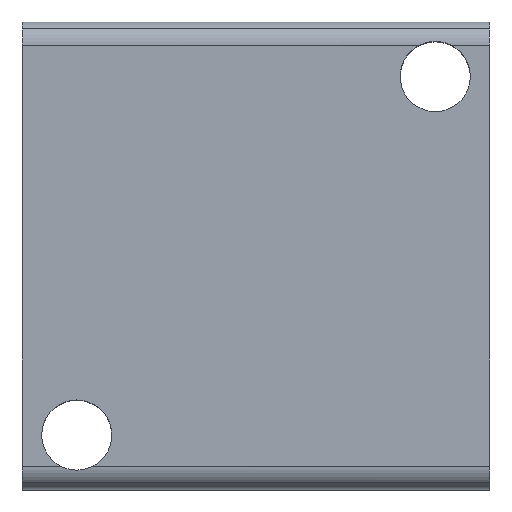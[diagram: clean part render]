
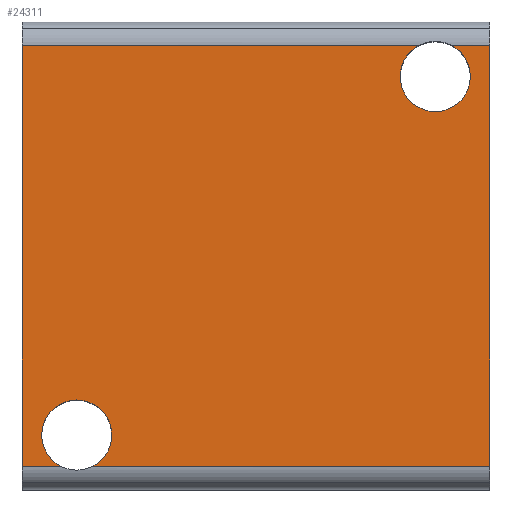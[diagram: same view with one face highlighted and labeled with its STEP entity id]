
A CAD part, top view. The second image highlights one B-rep face of the part: STEP entity #24311.
In plain terms, the highlighted planar face has unit normal (0, 0, 1).
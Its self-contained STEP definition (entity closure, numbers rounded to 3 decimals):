
#323=CARTESIAN_POINT('',(-24.75,-11.5,6.0));
#324=VERTEX_POINT('',#323);
#368=CARTESIAN_POINT('',(-29.25,-11.5,6.0));
#369=VERTEX_POINT('',#368);
#376=CARTESIAN_POINT('',(-28.031,-13.5,6.0));
#377=VERTEX_POINT('',#376);
#378=CARTESIAN_POINT('',(-27.,-11.5,6.0));
#379=DIRECTION('',(0.0,0.0,-1.0));
#380=DIRECTION('',(1.0,0.0,0.0));
#381=AXIS2_PLACEMENT_3D('',#378,#379,#380);
#382=CIRCLE('',#381,2.25);
#383=EDGE_CURVE('',#377,#369,#382,.T.);
#385=CARTESIAN_POINT('',(-25.969,-13.5,6.0));
#386=VERTEX_POINT('',#385);
#404=CARTESIAN_POINT('',(-27.,-11.5,6.0));
#405=DIRECTION('',(0.0,0.0,-1.0));
#406=DIRECTION('',(1.0,0.0,0.0));
#407=AXIS2_PLACEMENT_3D('',#404,#405,#406);
#408=CIRCLE('',#407,2.25);
#409=EDGE_CURVE('',#324,#386,#408,.T.);
#429=CARTESIAN_POINT('',(-0.5,-13.5,6.0));
#430=VERTEX_POINT('',#429);
#438=CARTESIAN_POINT('',(-0.5,-13.5,6.0));
#439=DIRECTION('',(-1.0,0.0,0.0));
#440=VECTOR('',#439,25.469);
#441=LINE('',#438,#440);
#442=EDGE_CURVE('',#430,#386,#441,.T.);
#445=CARTESIAN_POINT('',(-30.5,-13.5,6.0));
#446=VERTEX_POINT('',#445);
#447=CARTESIAN_POINT('',(-28.031,-13.5,6.0));
#448=DIRECTION('',(-1.0,0.0,0.0));
#449=VECTOR('',#448,2.469);
#450=LINE('',#447,#449);
#451=EDGE_CURVE('',#377,#446,#450,.T.);
#519=CARTESIAN_POINT('',(-1.75,11.5,6.0));
#520=VERTEX_POINT('',#519);
#536=CARTESIAN_POINT('',(-6.25,11.5,6.0));
#537=VERTEX_POINT('',#536);
#544=CARTESIAN_POINT('',(-4.,11.5,6.0));
#545=DIRECTION('',(0.0,0.0,-1.0));
#546=DIRECTION('',(1.0,0.0,0.0));
#547=AXIS2_PLACEMENT_3D('',#544,#545,#546);
#548=CIRCLE('',#547,2.25);
#549=EDGE_CURVE('',#520,#537,#548,.T.);
#638=CARTESIAN_POINT('',(-30.5,13.5,6.0));
#639=VERTEX_POINT('',#638);
#647=CARTESIAN_POINT('',(-5.031,13.5,6.0));
#648=VERTEX_POINT('',#647);
#649=CARTESIAN_POINT('',(-30.5,13.5,6.0));
#650=DIRECTION('',(1.0,0.0,0.0));
#651=VECTOR('',#650,25.469);
#652=LINE('',#649,#651);
#653=EDGE_CURVE('',#639,#648,#652,.T.);
#655=CARTESIAN_POINT('',(-2.969,13.5,6.0));
#656=VERTEX_POINT('',#655);
#674=CARTESIAN_POINT('',(-0.5,13.5,6.0));
#675=VERTEX_POINT('',#674);
#676=CARTESIAN_POINT('',(-2.969,13.5,6.0));
#677=DIRECTION('',(1.0,0.0,0.0));
#678=VECTOR('',#677,2.469);
#679=LINE('',#676,#678);
#680=EDGE_CURVE('',#656,#675,#679,.T.);
#23963=CARTESIAN_POINT('',(-30.5,-13.5,6.0));
#23964=DIRECTION('',(0.0,1.0,0.0));
#23965=VECTOR('',#23964,27.0);
#23966=LINE('',#23963,#23965);
#23967=EDGE_CURVE('',#446,#639,#23966,.T.);
#24019=CARTESIAN_POINT('',(-0.5,13.5,6.0));
#24020=DIRECTION('',(0.0,-1.0,0.0));
#24021=VECTOR('',#24020,27.0);
#24022=LINE('',#24019,#24021);
#24023=EDGE_CURVE('',#675,#430,#24022,.T.);
#24134=CARTESIAN_POINT('',(-4.,11.5,6.0));
#24135=DIRECTION('',(0.0,0.0,-1.0));
#24136=DIRECTION('',(1.0,0.0,0.0));
#24137=AXIS2_PLACEMENT_3D('',#24134,#24135,#24136);
#24138=CIRCLE('',#24137,2.25);
#24139=EDGE_CURVE('',#656,#520,#24138,.T.);
#24142=CARTESIAN_POINT('',(-4.,11.5,6.0));
#24143=DIRECTION('',(0.0,0.0,-1.0));
#24144=DIRECTION('',(1.0,0.0,0.0));
#24145=AXIS2_PLACEMENT_3D('',#24142,#24143,#24144);
#24146=CIRCLE('',#24145,2.25);
#24147=EDGE_CURVE('',#537,#648,#24146,.T.);
#24216=CARTESIAN_POINT('',(-27.,-11.5,6.0));
#24217=DIRECTION('',(0.0,0.0,-1.0));
#24218=DIRECTION('',(1.0,0.0,0.0));
#24219=AXIS2_PLACEMENT_3D('',#24216,#24217,#24218);
#24220=CIRCLE('',#24219,2.25);
#24221=EDGE_CURVE('',#369,#324,#24220,.T.);
#24292=CARTESIAN_POINT('',(0.,0.,6.0));
#24293=DIRECTION('',(0.0,0.0,1.0));
#24294=DIRECTION('',(1.0,0.0,0.0));
#24295=AXIS2_PLACEMENT_3D('',#24292,#24293,#24294);
#24296=PLANE('',#24295);
#24297=ORIENTED_EDGE('',*,*,#653,.F.);
#24298=ORIENTED_EDGE('',*,*,#23967,.F.);
#24299=ORIENTED_EDGE('',*,*,#451,.F.);
#24300=ORIENTED_EDGE('',*,*,#383,.T.);
#24301=ORIENTED_EDGE('',*,*,#24221,.T.);
#24302=ORIENTED_EDGE('',*,*,#409,.T.);
#24303=ORIENTED_EDGE('',*,*,#442,.F.);
#24304=ORIENTED_EDGE('',*,*,#24023,.F.);
#24305=ORIENTED_EDGE('',*,*,#680,.F.);
#24306=ORIENTED_EDGE('',*,*,#24139,.T.);
#24307=ORIENTED_EDGE('',*,*,#549,.T.);
#24308=ORIENTED_EDGE('',*,*,#24147,.T.);
#24309=EDGE_LOOP('',(#24297,#24298,#24299,#24300,#24301,#24302,#24303,#24304,#24305,#24306,#24307,#24308));
#24310=FACE_OUTER_BOUND('',#24309,.T.);
#24311=ADVANCED_FACE('',(#24310),#24296,.T.);
